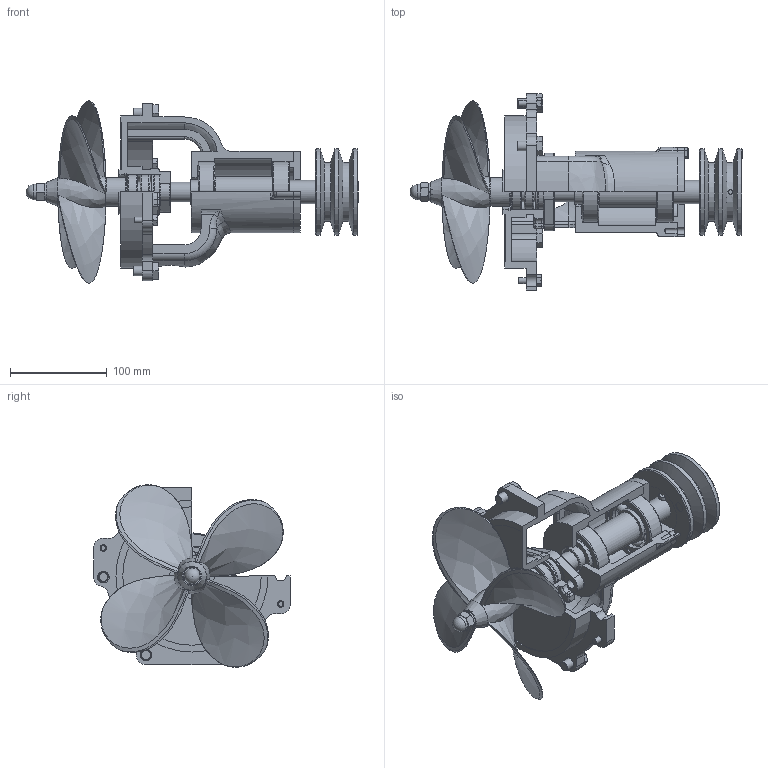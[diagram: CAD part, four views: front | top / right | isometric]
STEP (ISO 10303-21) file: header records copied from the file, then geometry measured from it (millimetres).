
FILE_DESCRIPTION(/* description */ (''),/* implementation_level */ '2;1');
FILE_NAME(/* name */ 'C:\Users\admin\Desktop\inventor\motore a elica\step\motore_girante_elica.stp',/* time_stamp */ '2021-10-25T19:03:10+02:00',/* author */ ('admin'),/* organization */ (''),/* preprocessor_version */ 'ST-DEVELOPER v18.1',/* originating_system */ 'Autodesk Inventor 2022',/* authorisation */ '');
FILE_SCHEMA (('AUTOMOTIVE_DESIGN { 1 0 10303 214 3 1 1 }'));
Length unit declared in the file: millimetre
Products named in the file (20): girante_elica; girante_elica_1; SHAFT; Part2; small pin; main pin; PULI; new small bolt; FLANGE; v part; big ring; bolt_CPY; bolt_CPY_CPY; bolt; smal bolt; rope seal; ulir se6; DIN 625 SKF - SKF 6305-2RS1; UNI 8839 - A 10; UN 5721 - M10
Assembly tree (23 placements, depth 2):
  girante_elica
    girante_elica_1
    SHAFT
    Part2
    small pin
    main pin
    PULI
    new small bolt
    bolt  x2
    FLANGE
    v part
    big ring
    bolt_CPY
    bolt_CPY_CPY
    smal bolt  x2
    rope seal  x2
    ulir se6
    DIN 625 SKF - SKF 6305-2RS1  x2
    UNI 8839 - A 10
    UN 5721 - M10
Bounding box: 342.8 x 203 x 188.36 mm (x, y, z)
Volume: 1051646.2 mm3; surface area: 341894.5 mm2
Topology: 23 solids, 23 shells, 640 faces, 1656 edges, 1050 vertices
Faces by surface type: plane 225, cylinder 200, cone 82, torus 58, bspline 50, sphere 25
Full cylindrical faces by diameter (mm): 4.917 x2, 6 x4, 6.647 x2, 7 x1, 8.376 x1, 9 x1, 9.5 x2, 10 x13, 12 x1, 15 x4, 16 x2, 20 x3, 21 x2, 24 x1, 25 x5, 29.842 x1, 32 x2, 36 x4, 36.84 x4, 42 x1, 50 x2, 50.16 x4, 61 x2, 62 x2, 89 x3
Entity records: 21057 total; most frequent: CARTESIAN_POINT 7049, ORIENTED_EDGE 2796, DIRECTION 2744, EDGE_CURVE 1398, AXIS2_PLACEMENT_3D 1092, VERTEX_POINT 903, EDGE_LOOP 637, FACE_OUTER_BOUND 561
